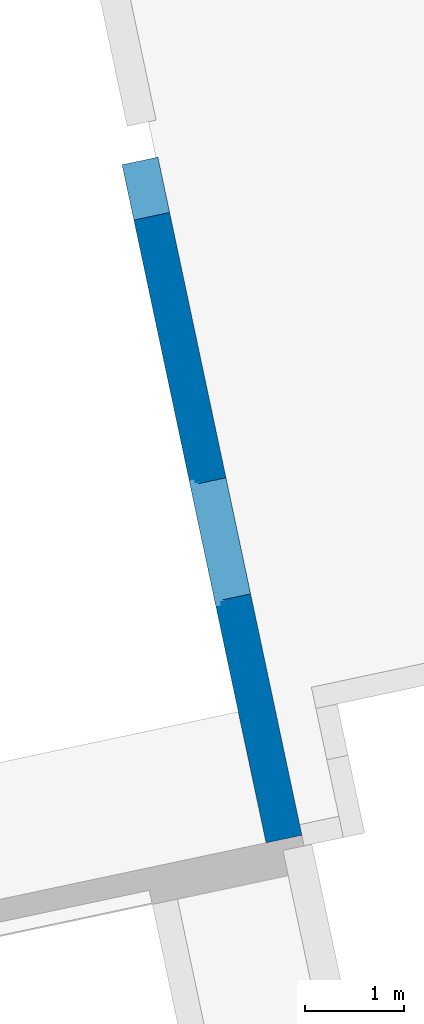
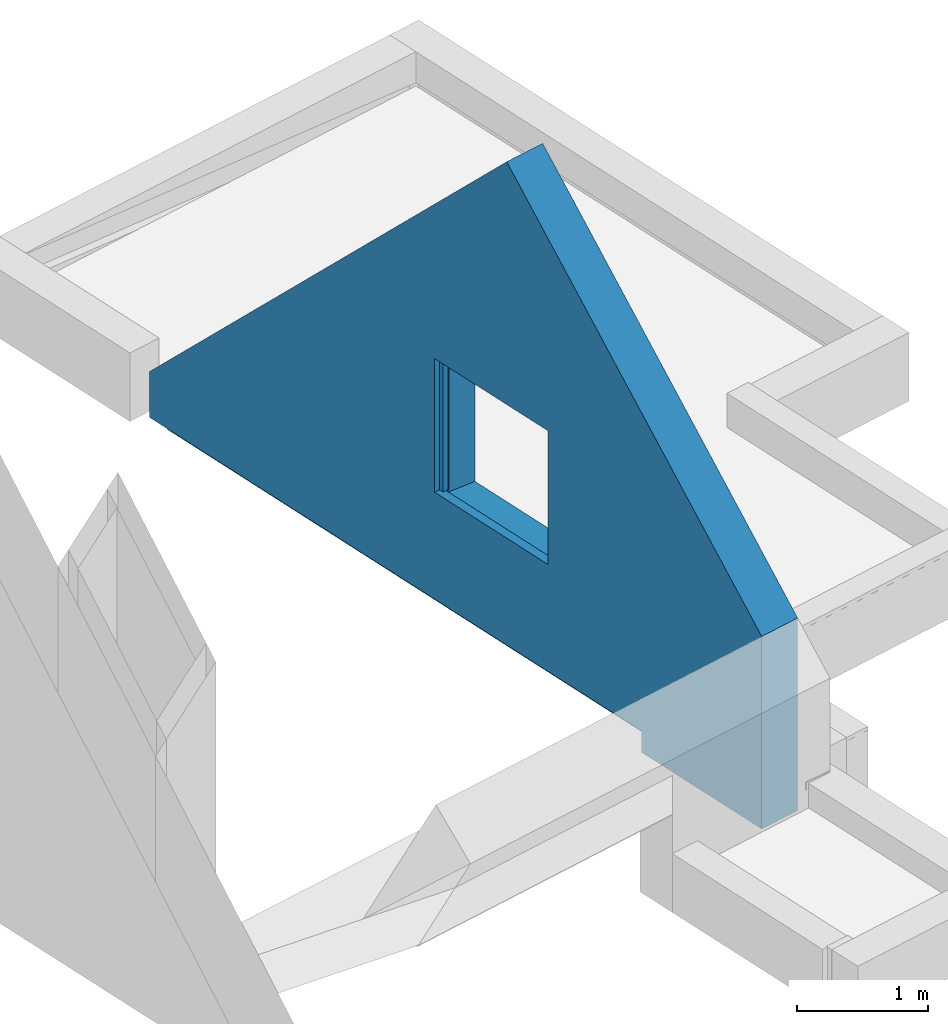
# One storey, part 3 of 5: 1 wall.
"""IFC2X3 building model written with IfcOpenShell, lengths in centimetres."""

from ifc_helpers import new_model, entity, si_unit, converted_unit, derived_unit, direction, frame, origin, place, context, subcontext, project, spatial, faceted_brep, material, layer, layer_set, type_object, element, save


model = new_model("IFC2X3")

# Units and contexts
model_context = context("Model", 3, precision=0.001, world=origin(), true_north=direction((6.12303176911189e-17, 1.0)))
body_context = subcontext(model_context, "Body", "Model", "MODEL_VIEW")
ifc_project = project(units=[si_unit("LENGTHUNIT", "METRE", prefix="CENTI"), si_unit("AREAUNIT", "SQUARE_METRE"), si_unit("VOLUMEUNIT", "CUBIC_METRE"), converted_unit("PLANEANGLEUNIT", "DEGREE", entity("IfcRatioMeasure", 0.0174532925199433), si_unit("PLANEANGLEUNIT", "RADIAN"), dimensions=[0, 0, 0, 0, 0, 0, 0]), si_unit("MASSUNIT", "GRAM", prefix="KILO"), derived_unit("MASSDENSITYUNIT", [(si_unit("MASSUNIT", "GRAM", prefix="KILO"), 1), (si_unit("LENGTHUNIT", "METRE"), -3)]), derived_unit("IONCONCENTRATIONUNIT", [(si_unit("MASSUNIT", "GRAM", prefix="KILO"), 1), (si_unit("LENGTHUNIT", "METRE"), -3)]), derived_unit("MOMENTOFINERTIAUNIT", [(si_unit("LENGTHUNIT", "METRE"), 4)]), si_unit("TIMEUNIT", "SECOND"), si_unit("FREQUENCYUNIT", "HERTZ"), si_unit("THERMODYNAMICTEMPERATUREUNIT", "DEGREE_CELSIUS"), derived_unit("THERMALTRANSMITTANCEUNIT", [(si_unit("MASSUNIT", "GRAM", prefix="KILO"), 1), (si_unit("THERMODYNAMICTEMPERATUREUNIT", "KELVIN"), -1), (si_unit("TIMEUNIT", "SECOND"), -3)]), derived_unit("THERMALCONDUCTANCEUNIT", [(si_unit("MASSUNIT", "GRAM", prefix="KILO"), 1), (si_unit("THERMODYNAMICTEMPERATUREUNIT", "KELVIN"), -1), (si_unit("TIMEUNIT", "SECOND"), -3), (si_unit("LENGTHUNIT", "METRE"), 1)]), derived_unit("VOLUMETRICFLOWRATEUNIT", [(si_unit("LENGTHUNIT", "METRE"), 3), (si_unit("TIMEUNIT", "SECOND"), -1)]), derived_unit("MASSFLOWRATEUNIT", [(si_unit("MASSUNIT", "GRAM", prefix="KILO"), 1), (si_unit("TIMEUNIT", "SECOND"), -1)]), derived_unit("ROTATIONALFREQUENCYUNIT", [(si_unit("TIMEUNIT", "SECOND"), -1)]), si_unit("ELECTRICCURRENTUNIT", "AMPERE"), si_unit("ELECTRICVOLTAGEUNIT", "VOLT"), si_unit("POWERUNIT", "WATT"), si_unit("FORCEUNIT", "NEWTON", prefix="KILO"), si_unit("ILLUMINANCEUNIT", "LUX"), si_unit("LUMINOUSFLUXUNIT", "LUMEN"), si_unit("LUMINOUSINTENSITYUNIT", "CANDELA"), derived_unit("USERDEFINED", [(si_unit("MASSUNIT", "GRAM", prefix="KILO"), -1), (si_unit("LENGTHUNIT", "METRE"), -2), (si_unit("TIMEUNIT", "SECOND"), 3), (si_unit("LUMINOUSFLUXUNIT", "LUMEN"), 1)]), derived_unit("USERDEFINED", [(si_unit("MASSUNIT", "GRAM", prefix="KILO"), 1), (si_unit("TIMEUNIT", "SECOND"), -3), (si_unit("LENGTHUNIT", "METRE"), 3), (si_unit("ELECTRICCURRENTUNIT", "AMPERE"), -2)]), derived_unit("SOUNDPOWERUNIT", [(si_unit("MASSUNIT", "GRAM", prefix="KILO"), 1), (si_unit("TIMEUNIT", "SECOND"), -3), (si_unit("LENGTHUNIT", "METRE"), 2)]), derived_unit("SOUNDPRESSUREUNIT", [(si_unit("MASSUNIT", "GRAM", prefix="KILO"), 1), (si_unit("LENGTHUNIT", "METRE"), -1), (si_unit("TIMEUNIT", "SECOND"), -2)]), derived_unit("LINEARVELOCITYUNIT", [(si_unit("LENGTHUNIT", "METRE"), 1), (si_unit("TIMEUNIT", "SECOND"), -1)]), si_unit("PRESSUREUNIT", "PASCAL"), derived_unit("USERDEFINED", [(si_unit("MASSUNIT", "GRAM", prefix="KILO"), 1), (si_unit("LENGTHUNIT", "METRE"), -2), (si_unit("TIMEUNIT", "SECOND"), -2)]), derived_unit("LINEARFORCEUNIT", [(si_unit("MASSUNIT", "GRAM", prefix="KILO"), 1), (si_unit("TIMEUNIT", "SECOND"), -2)]), derived_unit("PLANARFORCEUNIT", [(si_unit("MASSUNIT", "GRAM", prefix="KILO"), 1), (si_unit("LENGTHUNIT", "METRE"), -1), (si_unit("TIMEUNIT", "SECOND"), -2)]), derived_unit("SPECIFICHEATCAPACITYUNIT", [(si_unit("THERMODYNAMICTEMPERATUREUNIT", "KELVIN"), -1), (si_unit("LENGTHUNIT", "METRE"), 2), (si_unit("TIMEUNIT", "SECOND"), -2)]), derived_unit("HEATINGVALUEUNIT", [(si_unit("LENGTHUNIT", "METRE"), 2), (si_unit("TIMEUNIT", "SECOND"), -2)]), derived_unit("VAPORPERMEABILITYUNIT", [(si_unit("LENGTHUNIT", "METRE"), -1), (si_unit("TIMEUNIT", "SECOND"), 1)]), derived_unit("DYNAMICVISCOSITYUNIT", [(si_unit("MASSUNIT", "GRAM", prefix="KILO"), 1), (si_unit("TIMEUNIT", "SECOND"), -1), (si_unit("LENGTHUNIT", "METRE"), -1)]), derived_unit("THERMALEXPANSIONCOEFFICIENTUNIT", [(si_unit("THERMODYNAMICTEMPERATUREUNIT", "KELVIN"), -1)]), derived_unit("MODULUSOFELASTICITYUNIT", [(si_unit("MASSUNIT", "GRAM", prefix="KILO"), 1), (si_unit("LENGTHUNIT", "METRE"), -1), (si_unit("TIMEUNIT", "SECOND"), -2)]), derived_unit("ISOTHERMALMOISTURECAPACITYUNIT", [(si_unit("LENGTHUNIT", "METRE"), 3), (si_unit("MASSUNIT", "GRAM", prefix="KILO"), -1)]), derived_unit("MOISTUREDIFFUSIVITYUNIT", [(si_unit("TIMEUNIT", "SECOND"), -1), (si_unit("LENGTHUNIT", "METRE"), 2)])], contexts=[model_context])

# Site, building, storey
site_placement = place(None, frame((14083.8920177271, -6853.25409548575, 6900.0), z_axis=(0.0, 0.0, 1.0), x_axis=(0.978188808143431, 0.207717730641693, 0.0)))
site = spatial("IfcSite", under=ifc_project, at=site_placement, Name="Surface", CompositionType="ELEMENT")
building_placement = place(site_placement, origin())
building = spatial("IfcBuilding", under=site, at=building_placement, CompositionType="ELEMENT")
storey_placement = place(building_placement, frame((0.0, 0.0, 269.0)))
storey = spatial("IfcBuildingStorey", under=building, at=storey_placement, Name="***R+1 (SD)***", CompositionType="ELEMENT", Elevation=269.0)

# Wall
ifc_material_1 = material(Name="__ ENDUIT_Blanc")
ifc_layer_1 = layer(ifc_material_1, 2.0)
ifc_material_2 = material(Name="__ BETON_parpaings")
ifc_layer_2 = layer(ifc_material_2, 20.0)
ifc_material_3 = material(Name="__ ISOLANT (pat 1)")
ifc_layer_3 = layer(ifc_material_3, 13.0)
ifc_layer_4 = layer(ifc_material_1, 2.0)
ifc_layer_set = layer_set([ifc_layer_1, ifc_layer_2, ifc_layer_3, ifc_layer_4], Name="Mur de base:*BRIQUE 37 (20 +INT 13+2 + EXT 2) (Iso+BA13)(enduit)")
wall_type = type_object("IfcWallType", Name="Mur de base:*BRIQUE 37 (20 +INT 13+2 + EXT 2) (Iso+BA13)(enduit)", PredefinedType="STANDARD", material=ifc_layer_set)
wall_placement = place(storey_placement, frame((-6271.31321908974, 15502.6324526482, 0.0), z_axis=(0.0, 0.0, 1.0), x_axis=(0.0, -1.0, 0.0)))
element("IfcWall", 1, at=wall_placement, inside=storey, type_object=wall_type, Name="Mur de base:*BRIQUE 37 (20 +INT 13+2 + EXT 2) (Iso+BA13)(enduit)", ObjectType="Mur de base:*BRIQUE 37 (20 +INT 13+2 + EXT 2) (Iso+BA13)(enduit)", context=body_context, shape_type="Brep", body=[
    faceted_brep([(700.959974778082, -18.4999999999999, 180.0), (408.979987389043, -18.4999999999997, 471.979987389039), (0.0, -18.4999999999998, 63.0), (0.0, -18.4999999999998, 20.0), (563.459974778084, -18.5000000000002, 20.0), (563.459974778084, -18.5000000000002, 0.0), (700.959974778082, -18.4999999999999, 0.0), (456.459974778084, -18.4999999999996, 120.0), (326.459974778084, -18.4999999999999, 120.0), (326.459974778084, -18.4999999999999, 245.0), (456.459974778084, -18.4999999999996, 245.0), (700.959974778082, 18.5000000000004, 0.0), (0.0, 18.5000000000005, 0.0), (0.0, 18.5000000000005, 63.0), (408.979987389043, 18.5000000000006, 471.979987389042), (700.959974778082, 18.5000000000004, 180.0), (331.459974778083, 18.5000000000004, 240.0), (331.459974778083, 18.5000000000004, 115.451977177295), (451.459974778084, 18.5000000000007, 115.451977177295), (451.459974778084, 18.5000000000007, 240.0), (563.459974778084, 0.0, 0.0), (0.0, 0.0, 0.0), (331.459974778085, -10.5000000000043, 120.0), (331.459974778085, -10.5000000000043, 118.5), (331.459974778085, -8.49999999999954, 240.0), (331.459974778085, -8.49999999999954, 120.0), (451.459974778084, -10.500000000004, 118.5), (451.459974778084, -10.500000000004, 120.0), (451.459974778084, -8.49999999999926, 120.0), (451.459974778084, -8.49999999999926, 240.0), (330.459974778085, -8.49999999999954, 120.0), (330.459974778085, -13.5000000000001, 120.0), (326.459974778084, -13.5000000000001, 120.0), (456.459974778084, -13.4999999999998, 120.0), (452.459974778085, -13.4999999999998, 120.0), (452.459974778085, -8.49999999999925, 120.0), (326.459974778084, -13.5000000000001, 245.0), (330.459974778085, -13.5000000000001, 241.0), (452.459974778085, -13.4999999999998, 241.0), (456.459974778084, -13.4999999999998, 245.0), (330.459974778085, -8.49999999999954, 241.0), (452.459974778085, -8.49999999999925, 241.0), (563.459974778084, 0.0, 20.0), (0.0, 0.0, 20.0)], [[[0, 1, 2, 3, 4, 5, 6], [7, 8, 9, 10]], [[11, 12, 13, 14, 15], [16, 17, 18, 19]], [[12, 11, 6, 5, 20, 21]], [[2, 1, 14, 13]], [[1, 0, 15, 14]], [[22, 23, 17, 16, 24, 25]], [[26, 27, 28, 29, 19, 18]], [[17, 23, 26, 18]], [[23, 22, 27, 26]], [[24, 16, 19, 29]], [[22, 25, 30, 31, 32, 8, 7, 33, 34, 35, 28, 27]], [[8, 32, 36, 9]], [[32, 31, 37, 38, 34, 33, 39, 36]], [[31, 30, 40, 37]], [[25, 24, 29, 28, 35, 41, 40, 30]], [[9, 36, 39, 10]], [[38, 37, 40, 41]], [[33, 7, 10, 39]], [[35, 34, 38, 41]], [[6, 11, 15, 0]], [[20, 42, 43, 21]], [[43, 42, 4, 3]], [[2, 13, 12, 21, 43, 3]], [[42, 20, 5, 4]]]),
])

save(model, "model.ifc")
